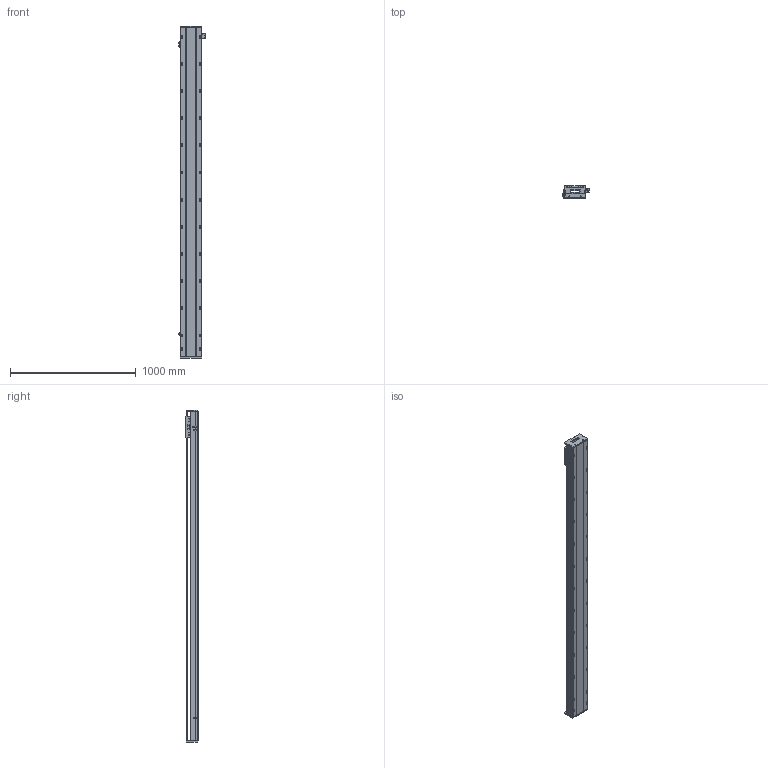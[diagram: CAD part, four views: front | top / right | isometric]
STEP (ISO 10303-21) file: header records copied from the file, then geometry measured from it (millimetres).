
FILE_DESCRIPTION (( 'STEP AP203' ), '1' );
FILE_NAME ('SKR17S-C1-S2370（简）.STEP', '2022-09-29T06:36:56', ( '' ), ( '' ), 'SwSTEP 2.0', 'SolidWorks 2018', '' );
FILE_SCHEMA (( 'CONFIG_CONTROL_DESIGN' ));
Length unit declared in the file: millimetre
Products named in the file (8): 棠掑假蚾輸; SKR17耜啣; SKR17底座-C1-S2370（简); SKR17S-C1-S2370（简）; SKR17滑台-170L（简）; SIKO棠掑; EE-SX672; 感应片（SKR12S-14S-17S）
Assembly tree (10 placements, depth 2):
  SKR17S-C1-S2370（简）
    SKR17底座-C1-S2370（简)
    SKR17滑台-170L（简）
    SIKO棠掑
    EE-SX672  x3
    SKR17耜啣  x2
    棠掑假蚾輸
    感应片（SKR12S-14S-17S）
Bounding box: 212.7 x 97 x 2640 mm (x, y, z)
Volume: 20102156.6 mm3; surface area: 2422794.4 mm2
Topology: 11 solids, 11 shells, 1425 faces, 3979 edges, 2558 vertices
Faces by surface type: cylinder 716, plane 565, cone 144
Entity records: 45190 total; most frequent: CARTESIAN_POINT 12713, ORIENTED_EDGE 6930, DIRECTION 6228, EDGE_CURVE 3465, VERTEX_POINT 2262, AXIS2_PLACEMENT_3D 2225, LINE 1778, VECTOR 1778
